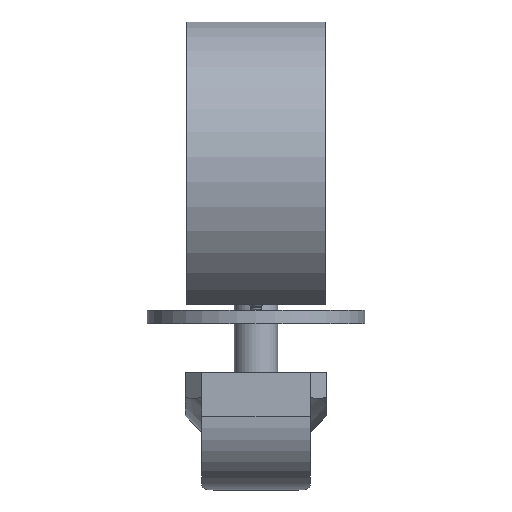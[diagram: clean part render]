
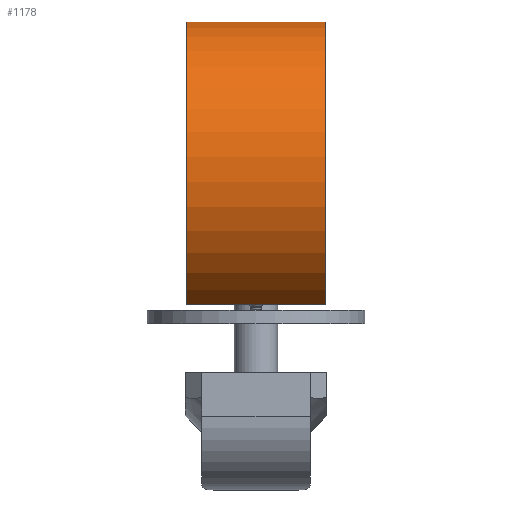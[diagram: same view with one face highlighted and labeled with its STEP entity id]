
A CAD part, left-side view. The second image highlights one B-rep face of the part: STEP entity #1178.
In plain terms, the highlighted cylindrical face has radius 14 mm (diameter 28 mm), a partial arc.
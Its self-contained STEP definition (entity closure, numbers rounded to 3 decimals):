
#203=CARTESIAN_POINT('',(-9.97,-6.35,1.75));
#204=VERTEX_POINT('',#203);
#211=CARTESIAN_POINT('',(-9.97,6.35,1.75));
#212=VERTEX_POINT('',#211);
#213=CARTESIAN_POINT('',(-9.97,6.35,1.75));
#214=DIRECTION('',(0.0,-1.0,0.0));
#215=VECTOR('',#214,12.7);
#216=LINE('',#213,#215);
#217=EDGE_CURVE('',#212,#204,#216,.T.);
#1146=CARTESIAN_POINT('',(-3.015,6.35,13.901));
#1147=DIRECTION('',(0.0,-1.0,0.0));
#1148=DIRECTION('',(-0.146,0.0,0.989));
#1149=AXIS2_PLACEMENT_3D('',#1146,#1147,#1148);
#1150=CYLINDRICAL_SURFACE('',#1149,14.);
#1151=CARTESIAN_POINT('',(-5.063,-6.35,27.75));
#1152=VERTEX_POINT('',#1151);
#1153=CARTESIAN_POINT('',(-3.015,-6.35,13.901));
#1154=DIRECTION('',(0.0,1.0,0.0));
#1155=DIRECTION('',(-0.146,0.0,0.989));
#1156=AXIS2_PLACEMENT_3D('',#1153,#1154,#1155);
#1157=CIRCLE('',#1156,14.);
#1158=EDGE_CURVE('',#204,#1152,#1157,.T.);
#1159=ORIENTED_EDGE('',*,*,#1158,.T.);
#1160=CARTESIAN_POINT('',(-5.063,6.35,27.75));
#1161=VERTEX_POINT('',#1160);
#1162=CARTESIAN_POINT('',(-5.063,6.35,27.75));
#1163=DIRECTION('',(0.0,-1.0,0.0));
#1164=VECTOR('',#1163,12.7);
#1165=LINE('',#1162,#1164);
#1166=EDGE_CURVE('',#1161,#1152,#1165,.T.);
#1167=ORIENTED_EDGE('',*,*,#1166,.F.);
#1168=CARTESIAN_POINT('',(-3.015,6.35,13.901));
#1169=DIRECTION('',(0.0,-1.0,0.0));
#1170=DIRECTION('',(-0.146,0.0,0.989));
#1171=AXIS2_PLACEMENT_3D('',#1168,#1169,#1170);
#1172=CIRCLE('',#1171,14.);
#1173=EDGE_CURVE('',#1161,#212,#1172,.T.);
#1174=ORIENTED_EDGE('',*,*,#1173,.T.);
#1175=ORIENTED_EDGE('',*,*,#217,.T.);
#1176=EDGE_LOOP('',(#1159,#1167,#1174,#1175));
#1177=FACE_OUTER_BOUND('',#1176,.T.);
#1178=ADVANCED_FACE('',(#1177),#1150,.T.);
